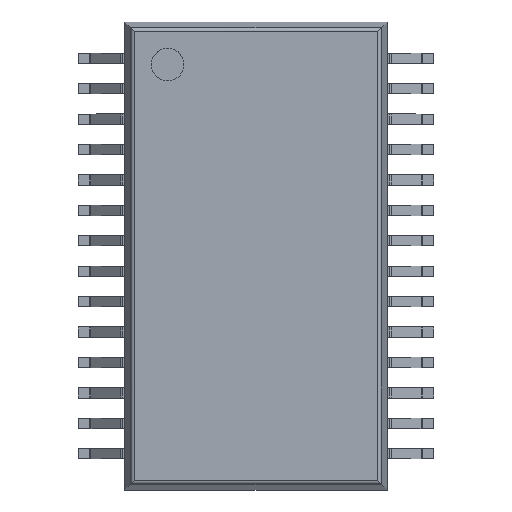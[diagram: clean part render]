
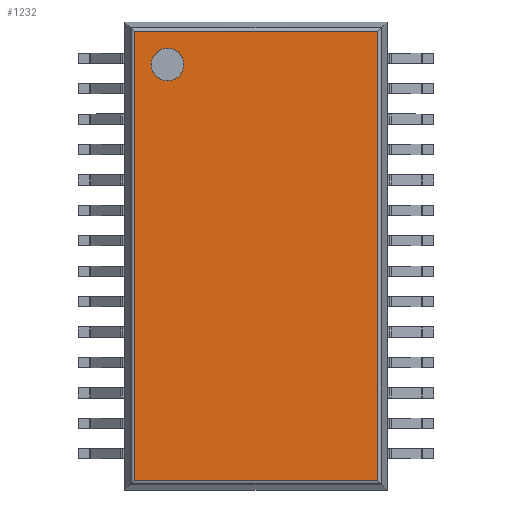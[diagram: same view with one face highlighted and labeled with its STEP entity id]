
A CAD part, top view. The second image highlights one B-rep face of the part: STEP entity #1232.
In plain terms, the highlighted planar face has unit normal (0, 0, 1).
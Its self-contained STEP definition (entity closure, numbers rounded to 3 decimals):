
#829 = CYLINDRICAL_SURFACE('',#830,0.07);
#830 = AXIS2_PLACEMENT_3D('',#831,#832,#833);
#831 = CARTESIAN_POINT('',(-2.606,-4.86,1.18));
#832 = DIRECTION('',(0.,1.,0.));
#833 = DIRECTION('',(-0.968,0.,0.25));
#971 = CYLINDRICAL_SURFACE('',#972,0.07);
#972 = AXIS2_PLACEMENT_3D('',#973,#974,#975);
#973 = CARTESIAN_POINT('',(-2.66,-4.806,1.18));
#974 = DIRECTION('',(1.,0.,0.));
#975 = DIRECTION('',(0.,-0.968,0.25));
#987 = VERTEX_POINT('',#988);
#988 = CARTESIAN_POINT('',(-2.606,-4.806,1.25));
#1022 = EDGE_CURVE('',#987,#1023,#1025,.T.);
#1023 = VERTEX_POINT('',#1024);
#1024 = CARTESIAN_POINT('',(-2.606,4.806,1.25));
#1025 = SURFACE_CURVE('',#1026,(#1030,#1037),.PCURVE_S1.);
#1026 = LINE('',#1027,#1028);
#1027 = CARTESIAN_POINT('',(-2.606,-4.86,1.25));
#1028 = VECTOR('',#1029,1.);
#1029 = DIRECTION('',(0.,1.,0.));
#1030 = PCURVE('',#829,#1031);
#1031 = DEFINITIONAL_REPRESENTATION('',(#1032),#1036);
#1032 = LINE('',#1033,#1034);
#1033 = CARTESIAN_POINT('',(1.318,0.));
#1034 = VECTOR('',#1035,1.);
#1035 = DIRECTION('',(0.,1.));
#1036 = ( GEOMETRIC_REPRESENTATION_CONTEXT(2) 
PARAMETRIC_REPRESENTATION_CONTEXT() REPRESENTATION_CONTEXT('2D SPACE',''
  ) );
#1037 = PCURVE('',#1038,#1043);
#1038 = PLANE('',#1039);
#1039 = AXIS2_PLACEMENT_3D('',#1040,#1041,#1042);
#1040 = CARTESIAN_POINT('',(-2.8,-5.,1.25));
#1041 = DIRECTION('',(0.,0.,1.));
#1042 = DIRECTION('',(1.,0.,0.));
#1043 = DEFINITIONAL_REPRESENTATION('',(#1044),#1048);
#1044 = LINE('',#1045,#1046);
#1045 = CARTESIAN_POINT('',(0.194,0.14));
#1046 = VECTOR('',#1047,1.);
#1047 = DIRECTION('',(0.,1.));
#1048 = ( GEOMETRIC_REPRESENTATION_CONTEXT(2) 
PARAMETRIC_REPRESENTATION_CONTEXT() REPRESENTATION_CONTEXT('2D SPACE',''
  ) );
#1071 = CYLINDRICAL_SURFACE('',#1072,0.07);
#1072 = AXIS2_PLACEMENT_3D('',#1073,#1074,#1075);
#1073 = CARTESIAN_POINT('',(-2.66,4.806,1.18));
#1074 = DIRECTION('',(1.,0.,0.));
#1075 = DIRECTION('',(0.,0.,1.));
#1159 = CYLINDRICAL_SURFACE('',#1160,0.07);
#1160 = AXIS2_PLACEMENT_3D('',#1161,#1162,#1163);
#1161 = CARTESIAN_POINT('',(2.606,-4.86,1.18));
#1162 = DIRECTION('',(0.,1.,0.));
#1163 = DIRECTION('',(0.,0.,1.));
#1175 = EDGE_CURVE('',#987,#1176,#1178,.T.);
#1176 = VERTEX_POINT('',#1177);
#1177 = CARTESIAN_POINT('',(2.606,-4.806,1.25));
#1178 = SURFACE_CURVE('',#1179,(#1183,#1190),.PCURVE_S1.);
#1179 = LINE('',#1180,#1181);
#1180 = CARTESIAN_POINT('',(-2.66,-4.806,1.25));
#1181 = VECTOR('',#1182,1.);
#1182 = DIRECTION('',(1.,0.,0.));
#1183 = PCURVE('',#971,#1184);
#1184 = DEFINITIONAL_REPRESENTATION('',(#1185),#1189);
#1185 = LINE('',#1186,#1187);
#1186 = CARTESIAN_POINT('',(-1.318,0.));
#1187 = VECTOR('',#1188,1.);
#1188 = DIRECTION('',(-0.,1.));
#1189 = ( GEOMETRIC_REPRESENTATION_CONTEXT(2) 
PARAMETRIC_REPRESENTATION_CONTEXT() REPRESENTATION_CONTEXT('2D SPACE',''
  ) );
#1190 = PCURVE('',#1038,#1191);
#1191 = DEFINITIONAL_REPRESENTATION('',(#1192),#1196);
#1192 = LINE('',#1193,#1194);
#1193 = CARTESIAN_POINT('',(0.14,0.194));
#1194 = VECTOR('',#1195,1.);
#1195 = DIRECTION('',(1.,0.));
#1196 = ( GEOMETRIC_REPRESENTATION_CONTEXT(2) 
PARAMETRIC_REPRESENTATION_CONTEXT() REPRESENTATION_CONTEXT('2D SPACE',''
  ) );
#1232 = ADVANCED_FACE('',(#1233,#1281),#1038,.T.);
#1233 = FACE_BOUND('',#1234,.T.);
#1234 = EDGE_LOOP('',(#1235,#1236,#1237,#1260));
#1235 = ORIENTED_EDGE('',*,*,#1022,.F.);
#1236 = ORIENTED_EDGE('',*,*,#1175,.T.);
#1237 = ORIENTED_EDGE('',*,*,#1238,.T.);
#1238 = EDGE_CURVE('',#1176,#1239,#1241,.T.);
#1239 = VERTEX_POINT('',#1240);
#1240 = CARTESIAN_POINT('',(2.606,4.806,1.25));
#1241 = SURFACE_CURVE('',#1242,(#1246,#1253),.PCURVE_S1.);
#1242 = LINE('',#1243,#1244);
#1243 = CARTESIAN_POINT('',(2.606,-4.86,1.25));
#1244 = VECTOR('',#1245,1.);
#1245 = DIRECTION('',(0.,1.,0.));
#1246 = PCURVE('',#1038,#1247);
#1247 = DEFINITIONAL_REPRESENTATION('',(#1248),#1252);
#1248 = LINE('',#1249,#1250);
#1249 = CARTESIAN_POINT('',(5.406,0.14));
#1250 = VECTOR('',#1251,1.);
#1251 = DIRECTION('',(0.,1.));
#1252 = ( GEOMETRIC_REPRESENTATION_CONTEXT(2) 
PARAMETRIC_REPRESENTATION_CONTEXT() REPRESENTATION_CONTEXT('2D SPACE',''
  ) );
#1253 = PCURVE('',#1159,#1254);
#1254 = DEFINITIONAL_REPRESENTATION('',(#1255),#1259);
#1255 = LINE('',#1256,#1257);
#1256 = CARTESIAN_POINT('',(0.,0.));
#1257 = VECTOR('',#1258,1.);
#1258 = DIRECTION('',(0.,1.));
#1259 = ( GEOMETRIC_REPRESENTATION_CONTEXT(2) 
PARAMETRIC_REPRESENTATION_CONTEXT() REPRESENTATION_CONTEXT('2D SPACE',''
  ) );
#1260 = ORIENTED_EDGE('',*,*,#1261,.F.);
#1261 = EDGE_CURVE('',#1023,#1239,#1262,.T.);
#1262 = SURFACE_CURVE('',#1263,(#1267,#1274),.PCURVE_S1.);
#1263 = LINE('',#1264,#1265);
#1264 = CARTESIAN_POINT('',(-2.66,4.806,1.25));
#1265 = VECTOR('',#1266,1.);
#1266 = DIRECTION('',(1.,0.,0.));
#1267 = PCURVE('',#1038,#1268);
#1268 = DEFINITIONAL_REPRESENTATION('',(#1269),#1273);
#1269 = LINE('',#1270,#1271);
#1270 = CARTESIAN_POINT('',(0.14,9.806));
#1271 = VECTOR('',#1272,1.);
#1272 = DIRECTION('',(1.,0.));
#1273 = ( GEOMETRIC_REPRESENTATION_CONTEXT(2) 
PARAMETRIC_REPRESENTATION_CONTEXT() REPRESENTATION_CONTEXT('2D SPACE',''
  ) );
#1274 = PCURVE('',#1071,#1275);
#1275 = DEFINITIONAL_REPRESENTATION('',(#1276),#1280);
#1276 = LINE('',#1277,#1278);
#1277 = CARTESIAN_POINT('',(-0.,0.));
#1278 = VECTOR('',#1279,1.);
#1279 = DIRECTION('',(-0.,1.));
#1280 = ( GEOMETRIC_REPRESENTATION_CONTEXT(2) 
PARAMETRIC_REPRESENTATION_CONTEXT() REPRESENTATION_CONTEXT('2D SPACE',''
  ) );
#1281 = FACE_BOUND('',#1282,.T.);
#1282 = EDGE_LOOP('',(#1283));
#1283 = ORIENTED_EDGE('',*,*,#1284,.F.);
#1284 = EDGE_CURVE('',#1285,#1285,#1287,.T.);
#1285 = VERTEX_POINT('',#1286);
#1286 = CARTESIAN_POINT('',(-1.54,4.09,1.25));
#1287 = SURFACE_CURVE('',#1288,(#1293,#1300),.PCURVE_S1.);
#1288 = CIRCLE('',#1289,0.35);
#1289 = AXIS2_PLACEMENT_3D('',#1290,#1291,#1292);
#1290 = CARTESIAN_POINT('',(-1.89,4.09,1.25));
#1291 = DIRECTION('',(0.,0.,1.));
#1292 = DIRECTION('',(1.,0.,0.));
#1293 = PCURVE('',#1038,#1294);
#1294 = DEFINITIONAL_REPRESENTATION('',(#1295),#1299);
#1295 = CIRCLE('',#1296,0.35);
#1296 = AXIS2_PLACEMENT_2D('',#1297,#1298);
#1297 = CARTESIAN_POINT('',(0.91,9.09));
#1298 = DIRECTION('',(1.,0.));
#1299 = ( GEOMETRIC_REPRESENTATION_CONTEXT(2) 
PARAMETRIC_REPRESENTATION_CONTEXT() REPRESENTATION_CONTEXT('2D SPACE',''
  ) );
#1300 = PCURVE('',#1301,#1306);
#1301 = CYLINDRICAL_SURFACE('',#1302,0.35);
#1302 = AXIS2_PLACEMENT_3D('',#1303,#1304,#1305);
#1303 = CARTESIAN_POINT('',(-1.89,4.09,1.125));
#1304 = DIRECTION('',(0.,0.,1.));
#1305 = DIRECTION('',(1.,0.,0.));
#1306 = DEFINITIONAL_REPRESENTATION('',(#1307),#1310);
#1307 = B_SPLINE_CURVE_WITH_KNOTS('',1,(#1308,#1309),.UNSPECIFIED.,.F.,
  .F.,(2,2),(0.,6.283),.PIECEWISE_BEZIER_KNOTS.);
#1308 = CARTESIAN_POINT('',(0.,0.125));
#1309 = CARTESIAN_POINT('',(6.283,0.125));
#1310 = ( GEOMETRIC_REPRESENTATION_CONTEXT(2) 
PARAMETRIC_REPRESENTATION_CONTEXT() REPRESENTATION_CONTEXT('2D SPACE',''
  ) );
